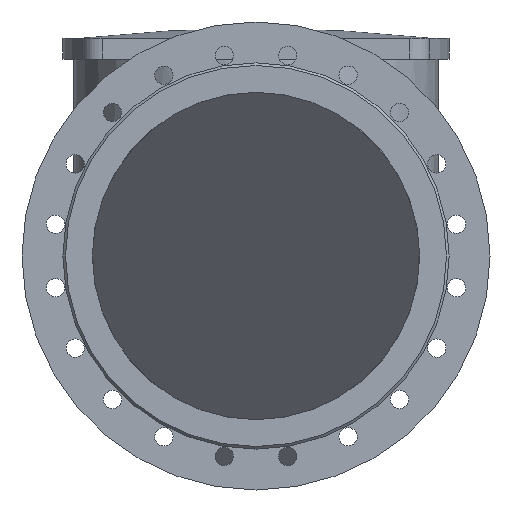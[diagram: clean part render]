
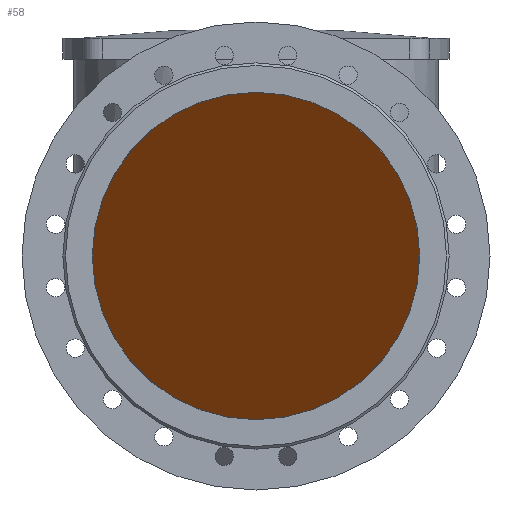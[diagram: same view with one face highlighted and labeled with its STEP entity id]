
A CAD part, front view. The second image highlights one B-rep face of the part: STEP entity #58.
In plain terms, the highlighted planar face has unit normal (0, -0.707, -0.707).
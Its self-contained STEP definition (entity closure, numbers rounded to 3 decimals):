
#58=ADVANCED_FACE('',(#878),#880,.T.);
#878=FACE_BOUND('',#879,.T.);
#879=EDGE_LOOP('',(#3033));
#880=PLANE('',#881);
#881=AXIS2_PLACEMENT_3D('',#882,#883,#884);
#882=CARTESIAN_POINT('',(-357.5,-316.292,316.292));
#883=DIRECTION('',(0.,-0.707,-0.707));
#884=DIRECTION('',(0.,0.707,-0.707));
#3033=ORIENTED_EDGE('',*,*,#3398,.T.);
#3398=EDGE_CURVE('',#3577,#3577,#3578,.F.);
#3577=VERTEX_POINT('',#3900);
#3578=(BOUNDED_CURVE()B_SPLINE_CURVE(3,
(#3901,#3902,#3903,#3904,#3905,#3906,#3907),
.UNSPECIFIED.,.T.,.F.)B_SPLINE_CURVE_WITH_KNOTS((4,3,4),
(0.,0.5,1.),
.UNSPECIFIED.)CURVE()GEOMETRIC_REPRESENTATION_ITEM()RATIONAL_B_SPLINE_CURVE((1.,
0.333,0.333,1.,0.333,0.333,1.))
REPRESENTATION_ITEM(''));
#3900=CARTESIAN_POINT('',(0.,-250.,250.));
#3901=CARTESIAN_POINT('',(0.,-250.,250.));
#3902=CARTESIAN_POINT('',(500.,-250.,250.));
#3903=CARTESIAN_POINT('',(500.,250.,-250.));
#3904=CARTESIAN_POINT('',(0.,250.,-250.));
#3905=CARTESIAN_POINT('',(-500.,250.,-250.));
#3906=CARTESIAN_POINT('',(-500.,-250.,250.));
#3907=CARTESIAN_POINT('',(0.,-250.,250.));
